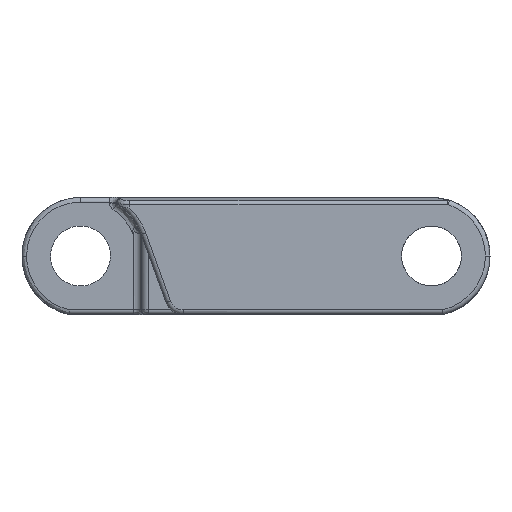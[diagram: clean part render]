
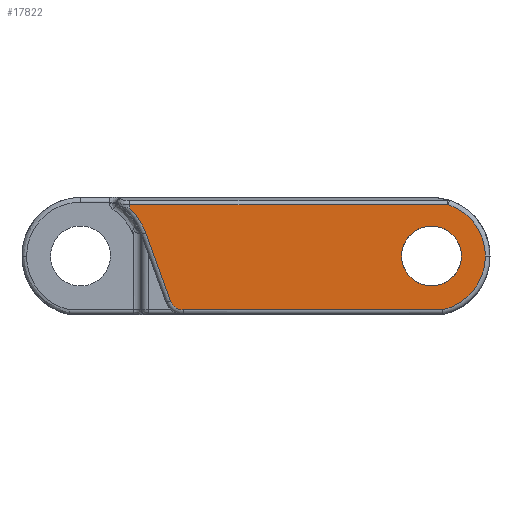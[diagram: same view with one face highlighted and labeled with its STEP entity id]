
A CAD part, left-side view. The second image highlights one B-rep face of the part: STEP entity #17822.
In plain terms, the highlighted planar face has unit normal (-1, 0, 0).
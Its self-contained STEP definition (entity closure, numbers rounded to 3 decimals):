
#1890=CARTESIAN_POINT('',(-122.7,13.7,5.589));
#1904=DIRECTION('',(0.,0.,1.));
#1905=VECTOR('',#1904,0.387);
#1906=CARTESIAN_POINT('',(-122.7,13.7,5.202));
#1907=LINE('',#1906,#1905);
#4379=CARTESIAN_POINT('',(-122.7,-19.05,0.));
#4380=DIRECTION('',(-1.,0.,0.));
#4381=DIRECTION('',(0.,-1.,0.));
#4382=AXIS2_PLACEMENT_3D('',#4379,#4380,#4381);
#4384=CARTESIAN_POINT('',(-122.7,-19.05,0.));
#4385=DIRECTION('',(-1.,0.,0.));
#4386=DIRECTION('',(0.,1.,0.));
#4387=AXIS2_PLACEMENT_3D('',#4384,#4385,#4386);
#4389=DIRECTION('',(0.,1.,0.));
#4390=VECTOR('',#4389,34.477);
#4391=CARTESIAN_POINT('',(-122.7,-20.777,
5.589));
#4392=LINE('',#4391,#4390);
#4393=CARTESIAN_POINT('',(-122.7,-19.05,0.));
#4394=DIRECTION('',(1.,0.,0.));
#4395=DIRECTION('',(0.,-0.295,0.955));
#4396=AXIS2_PLACEMENT_3D('',#4393,#4394,#4395);
#4398=CARTESIAN_POINT('',(-122.7,-18.9,0.));
#4399=DIRECTION('',(1.,0.,0.));
#4400=DIRECTION('',(0.,-1.,-0.001));
#4401=AXIS2_PLACEMENT_3D('',#4398,#4399,#4400);
#4403=DIRECTION('',(0.,-1.,0.));
#4404=VECTOR('',#4403,28.122);
#4405=CARTESIAN_POINT('',(-122.7,7.889,-5.85));
#4406=LINE('',#4405,#4404);
#4407=CARTESIAN_POINT('',(-122.7,7.889,-4.35));
#4408=DIRECTION('',(-1.,0.,0.));
#4409=DIRECTION('',(0.,0.94,-0.343));
#4410=AXIS2_PLACEMENT_3D('',#4407,#4408,#4409);
#4412=DIRECTION('',(0.,-0.343,-0.94));
#4413=VECTOR('',#4412,7.859);
#4414=CARTESIAN_POINT('',(-122.7,11.99,2.52));
#4415=LINE('',#4414,#4413);
#4416=CARTESIAN_POINT('',(-122.7,18.9,0.001));
#4417=DIRECTION('',(1.,0.,0.));
#4418=DIRECTION('',(0.,-0.707,0.707));
#4419=AXIS2_PLACEMENT_3D('',#4416,#4417,#4418);
#5440=CARTESIAN_POINT('',(-122.7,-20.777,
5.589));
#12250=CARTESIAN_POINT('',(-122.7,11.99,2.52));
#12251=CARTESIAN_POINT('',(-122.7,9.298,-4.864));
#12252=VERTEX_POINT('',#12250);
#12253=VERTEX_POINT('',#12251);
#12256=CARTESIAN_POINT('',(-122.7,7.889,-5.85));
#12257=VERTEX_POINT('',#12256);
#12258=CARTESIAN_POINT('',(-122.7,-20.233,-5.85));
#12259=VERTEX_POINT('',#12258);
#12264=CARTESIAN_POINT('',(-122.7,-24.9,-0.003));
#12265=VERTEX_POINT('',#12264);
#12266=CARTESIAN_POINT('',(-122.7,-22.3,0.));
#12267=CARTESIAN_POINT('',(-122.7,-15.8,0.));
#12268=VERTEX_POINT('',#12266);
#12269=VERTEX_POINT('',#12267);
#12377=VERTEX_POINT('',#1890);
#12390=VERTEX_POINT('',#5440);
#12391=CARTESIAN_POINT('',(-122.7,13.7,5.202));
#12392=VERTEX_POINT('',#12391);
#17796=CARTESIAN_POINT('',(-122.7,-25.4,-6.35));
#17797=DIRECTION('',(1.,0.,0.));
#17798=DIRECTION('',(0.,1.,0.));
#17799=AXIS2_PLACEMENT_3D('',#17796,#17797,#17798);
#17800=PLANE('',#17799);
#17802=ORIENTED_EDGE('',*,*,#17801,.F.);
#17804=ORIENTED_EDGE('',*,*,#17803,.T.);
#17806=ORIENTED_EDGE('',*,*,#17805,.T.);
#17808=ORIENTED_EDGE('',*,*,#17807,.F.);
#17810=ORIENTED_EDGE('',*,*,#17809,.F.);
#17812=ORIENTED_EDGE('',*,*,#17811,.F.);
#17813=ORIENTED_EDGE('',*,*,#13790,.F.);
#17814=ORIENTED_EDGE('',*,*,#13804,.T.);
#17815=EDGE_LOOP('',(#17802,#17804,#17806,#17808,#17810,#17812,#17813,#17814));
#17816=FACE_OUTER_BOUND('',#17815,.F.);
#17817=ORIENTED_EDGE('',*,*,#17754,.T.);
#17819=ORIENTED_EDGE('',*,*,#17818,.T.);
#17820=EDGE_LOOP('',(#17817,#17819));
#17821=FACE_BOUND('',#17820,.F.);
#17822=ADVANCED_FACE('',(#17816,#17821),#17800,.F.);
#4383=CIRCLE('',#4382,3.25);
#4388=CIRCLE('',#4387,3.25);
#4397=CIRCLE('',#4396,5.85);
#4402=CIRCLE('',#4401,6.);
#4411=CIRCLE('',#4410,1.5);
#4420=CIRCLE('',#4419,7.355);
#13790=EDGE_CURVE('',#12392,#12252,#4420,.T.);
#13804=EDGE_CURVE('',#12392,#12377,#1907,.T.);
#17754=EDGE_CURVE('',#12268,#12269,#4383,.T.);
#17801=EDGE_CURVE('',#12390,#12377,#4392,.T.);
#17803=EDGE_CURVE('',#12390,#12265,#4397,.T.);
#17805=EDGE_CURVE('',#12265,#12259,#4402,.T.);
#17807=EDGE_CURVE('',#12257,#12259,#4406,.T.);
#17809=EDGE_CURVE('',#12253,#12257,#4411,.T.);
#17811=EDGE_CURVE('',#12252,#12253,#4415,.T.);
#17818=EDGE_CURVE('',#12269,#12268,#4388,.T.);
